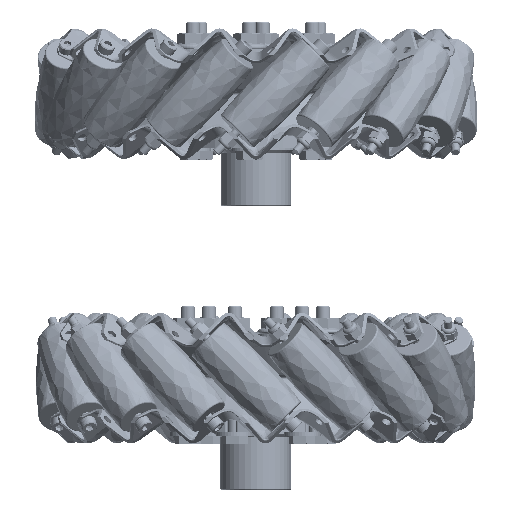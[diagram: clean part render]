
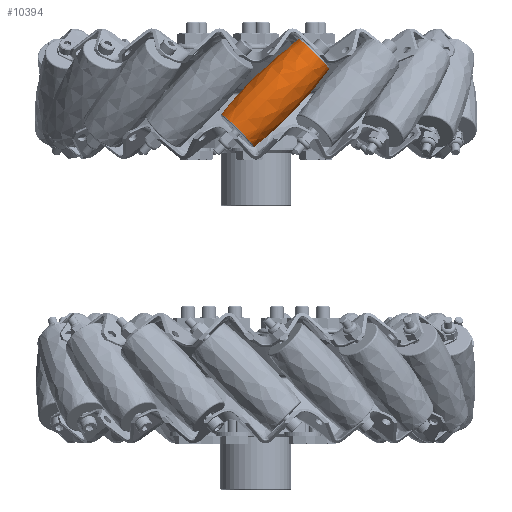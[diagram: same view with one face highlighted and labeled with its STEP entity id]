
A CAD part, left-side view. The second image highlights one B-rep face of the part: STEP entity #10394.
In plain terms, the highlighted free-form (B-spline) face has degree [2, 2] with [3, 9] control points.
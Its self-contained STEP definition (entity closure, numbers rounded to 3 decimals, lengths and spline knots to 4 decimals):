
#2030=(
BOUNDED_CURVE()
B_SPLINE_CURVE(2,(#15229,#15230,#15231),.UNSPECIFIED.,.F.,.F.)
B_SPLINE_CURVE_WITH_KNOTS((3,3),(-0.1468,0.1134),
 .UNSPECIFIED.)
CURVE()
GEOMETRIC_REPRESENTATION_ITEM()
RATIONAL_B_SPLINE_CURVE((1.,0.992,1.))
REPRESENTATION_ITEM('')
);
#2099=(
BOUNDED_SURFACE()
B_SPLINE_SURFACE(2,2,((#15202,#15203,#15204,#15205,#15206,#15207,#15208,
#15209,#15210),(#15211,#15212,#15213,#15214,#15215,#15216,#15217,#15218,
#15219),(#15220,#15221,#15222,#15223,#15224,#15225,#15226,#15227,#15228)),
 .UNSPECIFIED.,.F.,.T.,.F.)
B_SPLINE_SURFACE_WITH_KNOTS((3,3),(3,2,2,2,3),(-0.1134,0.1468),
(-3.1416,-1.5708,0.,1.5708,3.1416),
 .UNSPECIFIED.)
GEOMETRIC_REPRESENTATION_ITEM()
RATIONAL_B_SPLINE_SURFACE(((1.,0.707,1.,0.707,1.,
0.707,1.,0.707,1.),(0.992,0.701,
0.992,0.701,0.992,0.701,
0.992,0.701,0.992),(1.,0.707,
1.,0.707,1.,0.707,1.,0.707,1.)))
REPRESENTATION_ITEM('')
SURFACE()
);
#2713=FACE_OUTER_BOUND('',#3364,.T.);
#3364=EDGE_LOOP('',(#7273,#7274,#7275,#7276,#7277));
#4181=CIRCLE('',#11049,0.29);
#4182=CIRCLE('',#11050,0.29);
#4184=CIRCLE('',#11053,0.3145);
#4701=VERTEX_POINT('',#15186);
#4702=VERTEX_POINT('',#15187);
#4704=VERTEX_POINT('',#15193);
#5709=EDGE_CURVE('',#4701,#4702,#4181,.T.);
#5710=EDGE_CURVE('',#4702,#4701,#4182,.T.);
#5712=EDGE_CURVE('',#4704,#4704,#4184,.T.);
#5716=EDGE_CURVE('',#4702,#4704,#2030,.T.);
#7273=ORIENTED_EDGE('',*,*,#5709,.T.);
#7274=ORIENTED_EDGE('',*,*,#5716,.T.);
#7275=ORIENTED_EDGE('',*,*,#5712,.T.);
#7276=ORIENTED_EDGE('',*,*,#5716,.F.);
#7277=ORIENTED_EDGE('',*,*,#5710,.T.);
#10394=ADVANCED_FACE('',(#2713),#2099,.F.);
#11049=AXIS2_PLACEMENT_3D('',#15188,#12334,#12335);
#11050=AXIS2_PLACEMENT_3D('',#15189,#12336,#12337);
#11053=AXIS2_PLACEMENT_3D('',#15194,#12342,#12343);
#12334=DIRECTION('center_axis',(0.,0.,1.));
#12335=DIRECTION('ref_axis',(1.,0.,0.));
#12336=DIRECTION('center_axis',(0.,0.,1.));
#12337=DIRECTION('ref_axis',(1.,0.,0.));
#12342=DIRECTION('center_axis',(0.,0.,-1.));
#12343=DIRECTION('ref_axis',(-1.,0.,0.));
#15186=CARTESIAN_POINT('',(-0.29,0.,-1.5819));
#15187=CARTESIAN_POINT('',(0.29,0.,-1.5819));
#15188=CARTESIAN_POINT('Origin',(0.,0.,
-1.5819));
#15189=CARTESIAN_POINT('Origin',(0.,0.,
-1.5819));
#15193=CARTESIAN_POINT('',(0.3145,0.,-0.1162));
#15194=CARTESIAN_POINT('Origin',(0.,0.,
-0.1162));
#15202=CARTESIAN_POINT('Ctrl Pts',(0.3145,0.,
-0.1162));
#15203=CARTESIAN_POINT('Ctrl Pts',(0.3145,-0.3145,
-0.1162));
#15204=CARTESIAN_POINT('Ctrl Pts',(0.,-0.3145,
-0.1162));
#15205=CARTESIAN_POINT('Ctrl Pts',(-0.3145,-0.3145,
-0.1162));
#15206=CARTESIAN_POINT('Ctrl Pts',(-0.3145,0.,
-0.1162));
#15207=CARTESIAN_POINT('Ctrl Pts',(-0.3145,0.3145,
-0.1162));
#15208=CARTESIAN_POINT('Ctrl Pts',(0.,0.3145,
-0.1162));
#15209=CARTESIAN_POINT('Ctrl Pts',(0.3145,0.3145,
-0.1162));
#15210=CARTESIAN_POINT('Ctrl Pts',(0.3145,0.,
-0.1162));
#15211=CARTESIAN_POINT('Ctrl Pts',(0.3981,0.,
-0.8506));
#15212=CARTESIAN_POINT('Ctrl Pts',(0.3981,-0.3981,
-0.8506));
#15213=CARTESIAN_POINT('Ctrl Pts',(0.,-0.3981,
-0.8506));
#15214=CARTESIAN_POINT('Ctrl Pts',(-0.3981,-0.3981,
-0.8506));
#15215=CARTESIAN_POINT('Ctrl Pts',(-0.3981,0.,
-0.8506));
#15216=CARTESIAN_POINT('Ctrl Pts',(-0.3981,0.3981,
-0.8506));
#15217=CARTESIAN_POINT('Ctrl Pts',(0.,0.3981,
-0.8506));
#15218=CARTESIAN_POINT('Ctrl Pts',(0.3981,0.3981,
-0.8506));
#15219=CARTESIAN_POINT('Ctrl Pts',(0.3981,0.,
-0.8506));
#15220=CARTESIAN_POINT('Ctrl Pts',(0.29,0.,
-1.5819));
#15221=CARTESIAN_POINT('Ctrl Pts',(0.29,-0.29,
-1.5819));
#15222=CARTESIAN_POINT('Ctrl Pts',(0.,-0.29,
-1.5819));
#15223=CARTESIAN_POINT('Ctrl Pts',(-0.29,-0.29,
-1.5819));
#15224=CARTESIAN_POINT('Ctrl Pts',(-0.29,0.,
-1.5819));
#15225=CARTESIAN_POINT('Ctrl Pts',(-0.29,0.29,
-1.5819));
#15226=CARTESIAN_POINT('Ctrl Pts',(0.,0.29,
-1.5819));
#15227=CARTESIAN_POINT('Ctrl Pts',(0.29,0.29,
-1.5819));
#15228=CARTESIAN_POINT('Ctrl Pts',(0.29,0.,
-1.5819));
#15229=CARTESIAN_POINT('Ctrl Pts',(0.29,0.,
-1.5819));
#15230=CARTESIAN_POINT('Ctrl Pts',(0.3981,0.,
-0.8506));
#15231=CARTESIAN_POINT('Ctrl Pts',(0.3145,0.,
-0.1162));
